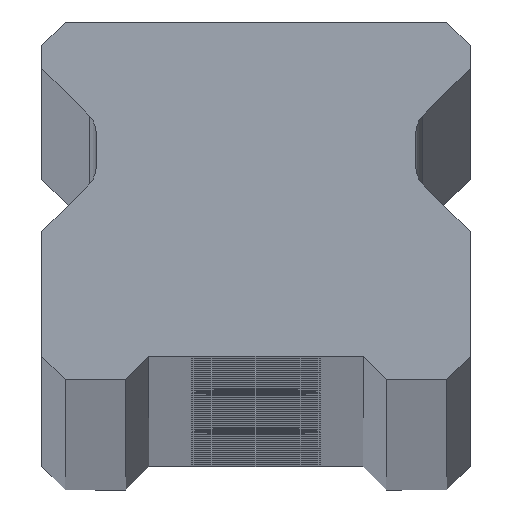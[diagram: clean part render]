
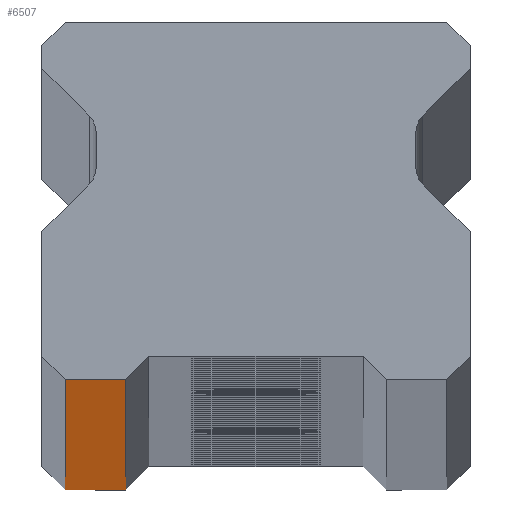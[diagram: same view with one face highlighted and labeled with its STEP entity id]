
A CAD part, top view. The second image highlights one B-rep face of the part: STEP entity #6507.
In plain terms, the highlighted planar face has unit normal (0, -1, 0).
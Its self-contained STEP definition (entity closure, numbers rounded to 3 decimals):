
#862 = DIRECTION ( 'NONE',  ( -1., 0., 0. ) ) ;
#1058 = CARTESIAN_POINT ( 'NONE',  ( -7., 0., -1700. ) ) ;
#1324 = VECTOR ( 'NONE', #7438, 1000. ) ;
#1530 = VERTEX_POINT ( 'NONE', #1058 ) ;
#2015 = DIRECTION ( 'NONE',  ( 1., 0., 0. ) ) ;
#2137 = EDGE_CURVE ( 'NONE', #6961, #5579, #4240, .T. ) ;
#2587 = LINE ( 'NONE', #5970, #1324 ) ;
#3004 = EDGE_LOOP ( 'NONE', ( #8803, #5955, #5668, #8298 ) ) ;
#4009 = VECTOR ( 'NONE', #2015, 1000. ) ;
#4139 = EDGE_CURVE ( 'NONE', #1530, #5579, #7610, .T. ) ;
#4192 = EDGE_CURVE ( 'NONE', #6303, #1530, #2587, .T. ) ;
#4240 = LINE ( 'NONE', #7910, #4009 ) ;
#4396 = DIRECTION ( 'NONE',  ( 0., 0., 1. ) ) ;
#4447 = VECTOR ( 'NONE', #4396, 1000. ) ;
#4528 = DIRECTION ( 'NONE',  ( 0., 1., 0. ) ) ;
#4690 = CARTESIAN_POINT ( 'NONE',  ( -7., 0., 1700. ) ) ;
#4762 = EDGE_CURVE ( 'NONE', #6961, #6303, #8877, .T. ) ;
#4781 = CARTESIAN_POINT ( 'NONE',  ( -7., 0., -1700. ) ) ;
#5266 = PLANE ( 'NONE',  #7975 ) ;
#5579 = VERTEX_POINT ( 'NONE', #4690 ) ;
#5668 = ORIENTED_EDGE ( 'NONE', *, *, #2137, .F. ) ;
#5731 = VECTOR ( 'NONE', #8042, 1000. ) ;
#5955 = ORIENTED_EDGE ( 'NONE', *, *, #4139, .T. ) ;
#5970 = CARTESIAN_POINT ( 'NONE',  ( 11.5, 0., -1700. ) ) ;
#6303 = VERTEX_POINT ( 'NONE', #8881 ) ;
#6507 = ADVANCED_FACE ( 'NONE', ( #7205 ), #5266, .F. ) ;
#6749 = CARTESIAN_POINT ( 'NONE',  ( 11.5, 0., 1700. ) ) ;
#6788 = CARTESIAN_POINT ( 'NONE',  ( -10.25, 0., 1700. ) ) ;
#6961 = VERTEX_POINT ( 'NONE', #6788 ) ;
#7205 = FACE_OUTER_BOUND ( 'NONE', #3004, .T. ) ;
#7298 = CARTESIAN_POINT ( 'NONE',  ( -10.25, 0., 1700. ) ) ;
#7438 = DIRECTION ( 'NONE',  ( 1., 0., 0. ) ) ;
#7610 = LINE ( 'NONE', #4781, #4447 ) ;
#7910 = CARTESIAN_POINT ( 'NONE',  ( 11.5, 0., 1700. ) ) ;
#7975 = AXIS2_PLACEMENT_3D ( 'NONE', #6749, #4528, #862 ) ;
#8042 = DIRECTION ( 'NONE',  ( 0., 0., -1. ) ) ;
#8298 = ORIENTED_EDGE ( 'NONE', *, *, #4762, .T. ) ;
#8803 = ORIENTED_EDGE ( 'NONE', *, *, #4192, .T. ) ;
#8877 = LINE ( 'NONE', #7298, #5731 ) ;
#8881 = CARTESIAN_POINT ( 'NONE',  ( -10.25, 0., -1700. ) ) ;
